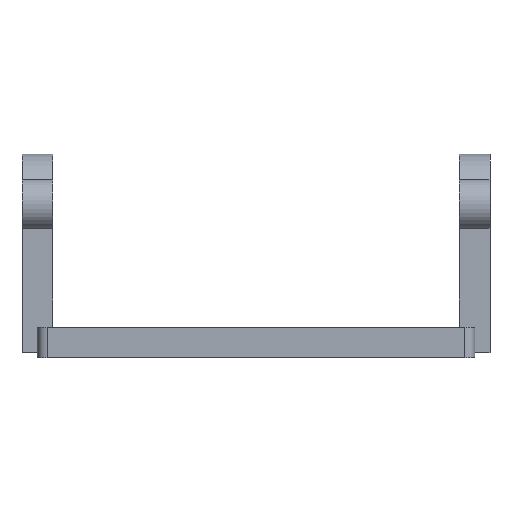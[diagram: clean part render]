
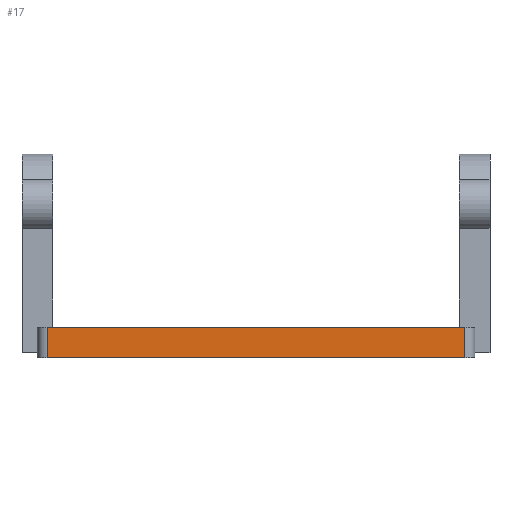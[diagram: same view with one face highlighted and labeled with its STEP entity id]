
A CAD part, left-side view. The second image highlights one B-rep face of the part: STEP entity #17.
In plain terms, the highlighted planar face has unit normal (-1, 0, 0).
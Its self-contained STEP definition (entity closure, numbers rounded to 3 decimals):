
#17 = ADVANCED_FACE('',(#18),#32,.F.);
#18 = FACE_BOUND('',#19,.F.);
#19 = EDGE_LOOP('',(#20,#55,#83,#111));
#20 = ORIENTED_EDGE('',*,*,#21,.F.);
#21 = EDGE_CURVE('',#22,#24,#26,.T.);
#22 = VERTEX_POINT('',#23);
#23 = CARTESIAN_POINT('',(-30.,-41.,-24.));
#24 = VERTEX_POINT('',#25);
#25 = CARTESIAN_POINT('',(-30.,41.,-24.));
#26 = SURFACE_CURVE('',#27,(#31,#43),.PCURVE_S1.);
#27 = LINE('',#28,#29);
#28 = CARTESIAN_POINT('',(-30.,-43.,-24.));
#29 = VECTOR('',#30,1.);
#30 = DIRECTION('',(0.,1.,0.));
#31 = PCURVE('',#32,#37);
#32 = PLANE('',#33);
#33 = AXIS2_PLACEMENT_3D('',#34,#35,#36);
#34 = CARTESIAN_POINT('',(-30.,-43.,-30.));
#35 = DIRECTION('',(1.,0.,0.));
#36 = DIRECTION('',(0.,0.,1.));
#37 = DEFINITIONAL_REPRESENTATION('',(#38),#42);
#38 = LINE('',#39,#40);
#39 = CARTESIAN_POINT('',(6.,0.));
#40 = VECTOR('',#41,1.);
#41 = DIRECTION('',(0.,-1.));
#42 = ( GEOMETRIC_REPRESENTATION_CONTEXT(2) 
PARAMETRIC_REPRESENTATION_CONTEXT() REPRESENTATION_CONTEXT('2D SPACE',''
  ) );
#43 = PCURVE('',#44,#49);
#44 = PLANE('',#45);
#45 = AXIS2_PLACEMENT_3D('',#46,#47,#48);
#46 = CARTESIAN_POINT('',(-30.,-43.,-24.));
#47 = DIRECTION('',(0.,0.,1.));
#48 = DIRECTION('',(1.,0.,0.));
#49 = DEFINITIONAL_REPRESENTATION('',(#50),#54);
#50 = LINE('',#51,#52);
#51 = CARTESIAN_POINT('',(0.,0.));
#52 = VECTOR('',#53,1.);
#53 = DIRECTION('',(0.,1.));
#54 = ( GEOMETRIC_REPRESENTATION_CONTEXT(2) 
PARAMETRIC_REPRESENTATION_CONTEXT() REPRESENTATION_CONTEXT('2D SPACE',''
  ) );
#55 = ORIENTED_EDGE('',*,*,#56,.F.);
#56 = EDGE_CURVE('',#57,#22,#59,.T.);
#57 = VERTEX_POINT('',#58);
#58 = CARTESIAN_POINT('',(-30.,-41.,-30.));
#59 = SURFACE_CURVE('',#60,(#64,#71),.PCURVE_S1.);
#60 = LINE('',#61,#62);
#61 = CARTESIAN_POINT('',(-30.,-41.,-30.));
#62 = VECTOR('',#63,1.);
#63 = DIRECTION('',(0.,0.,1.));
#64 = PCURVE('',#32,#65);
#65 = DEFINITIONAL_REPRESENTATION('',(#66),#70);
#66 = LINE('',#67,#68);
#67 = CARTESIAN_POINT('',(0.,-2.));
#68 = VECTOR('',#69,1.);
#69 = DIRECTION('',(1.,0.));
#70 = ( GEOMETRIC_REPRESENTATION_CONTEXT(2) 
PARAMETRIC_REPRESENTATION_CONTEXT() REPRESENTATION_CONTEXT('2D SPACE',''
  ) );
#71 = PCURVE('',#72,#77);
#72 = CYLINDRICAL_SURFACE('',#73,2.);
#73 = AXIS2_PLACEMENT_3D('',#74,#75,#76);
#74 = CARTESIAN_POINT('',(-28.,-41.,-30.));
#75 = DIRECTION('',(0.,0.,1.));
#76 = DIRECTION('',(-1.,-0.,0.));
#77 = DEFINITIONAL_REPRESENTATION('',(#78),#82);
#78 = LINE('',#79,#80);
#79 = CARTESIAN_POINT('',(0.,0.));
#80 = VECTOR('',#81,1.);
#81 = DIRECTION('',(0.,1.));
#82 = ( GEOMETRIC_REPRESENTATION_CONTEXT(2) 
PARAMETRIC_REPRESENTATION_CONTEXT() REPRESENTATION_CONTEXT('2D SPACE',''
  ) );
#83 = ORIENTED_EDGE('',*,*,#84,.T.);
#84 = EDGE_CURVE('',#57,#85,#87,.T.);
#85 = VERTEX_POINT('',#86);
#86 = CARTESIAN_POINT('',(-30.,41.,-30.));
#87 = SURFACE_CURVE('',#88,(#92,#99),.PCURVE_S1.);
#88 = LINE('',#89,#90);
#89 = CARTESIAN_POINT('',(-30.,-43.,-30.));
#90 = VECTOR('',#91,1.);
#91 = DIRECTION('',(0.,1.,0.));
#92 = PCURVE('',#32,#93);
#93 = DEFINITIONAL_REPRESENTATION('',(#94),#98);
#94 = LINE('',#95,#96);
#95 = CARTESIAN_POINT('',(0.,0.));
#96 = VECTOR('',#97,1.);
#97 = DIRECTION('',(0.,-1.));
#98 = ( GEOMETRIC_REPRESENTATION_CONTEXT(2) 
PARAMETRIC_REPRESENTATION_CONTEXT() REPRESENTATION_CONTEXT('2D SPACE',''
  ) );
#99 = PCURVE('',#100,#105);
#100 = PLANE('',#101);
#101 = AXIS2_PLACEMENT_3D('',#102,#103,#104);
#102 = CARTESIAN_POINT('',(-30.,-43.,-30.));
#103 = DIRECTION('',(0.,0.,1.));
#104 = DIRECTION('',(1.,0.,0.));
#105 = DEFINITIONAL_REPRESENTATION('',(#106),#110);
#106 = LINE('',#107,#108);
#107 = CARTESIAN_POINT('',(0.,0.));
#108 = VECTOR('',#109,1.);
#109 = DIRECTION('',(0.,1.));
#110 = ( GEOMETRIC_REPRESENTATION_CONTEXT(2) 
PARAMETRIC_REPRESENTATION_CONTEXT() REPRESENTATION_CONTEXT('2D SPACE',''
  ) );
#111 = ORIENTED_EDGE('',*,*,#112,.T.);
#112 = EDGE_CURVE('',#85,#24,#113,.T.);
#113 = SURFACE_CURVE('',#114,(#118,#125),.PCURVE_S1.);
#114 = LINE('',#115,#116);
#115 = CARTESIAN_POINT('',(-30.,41.,-30.));
#116 = VECTOR('',#117,1.);
#117 = DIRECTION('',(0.,0.,1.));
#118 = PCURVE('',#32,#119);
#119 = DEFINITIONAL_REPRESENTATION('',(#120),#124);
#120 = LINE('',#121,#122);
#121 = CARTESIAN_POINT('',(0.,-84.));
#122 = VECTOR('',#123,1.);
#123 = DIRECTION('',(1.,0.));
#124 = ( GEOMETRIC_REPRESENTATION_CONTEXT(2) 
PARAMETRIC_REPRESENTATION_CONTEXT() REPRESENTATION_CONTEXT('2D SPACE',''
  ) );
#125 = PCURVE('',#126,#131);
#126 = CYLINDRICAL_SURFACE('',#127,2.);
#127 = AXIS2_PLACEMENT_3D('',#128,#129,#130);
#128 = CARTESIAN_POINT('',(-28.,41.,-30.));
#129 = DIRECTION('',(0.,0.,1.));
#130 = DIRECTION('',(-1.,-0.,0.));
#131 = DEFINITIONAL_REPRESENTATION('',(#132),#136);
#132 = LINE('',#133,#134);
#133 = CARTESIAN_POINT('',(-0.,0.));
#134 = VECTOR('',#135,1.);
#135 = DIRECTION('',(-0.,1.));
#136 = ( GEOMETRIC_REPRESENTATION_CONTEXT(2) 
PARAMETRIC_REPRESENTATION_CONTEXT() REPRESENTATION_CONTEXT('2D SPACE',''
  ) );
